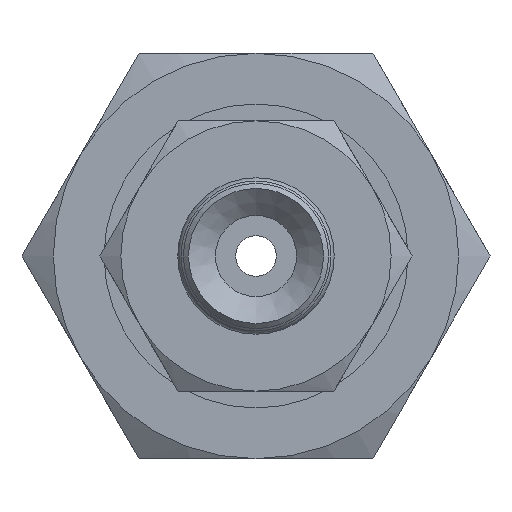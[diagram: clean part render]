
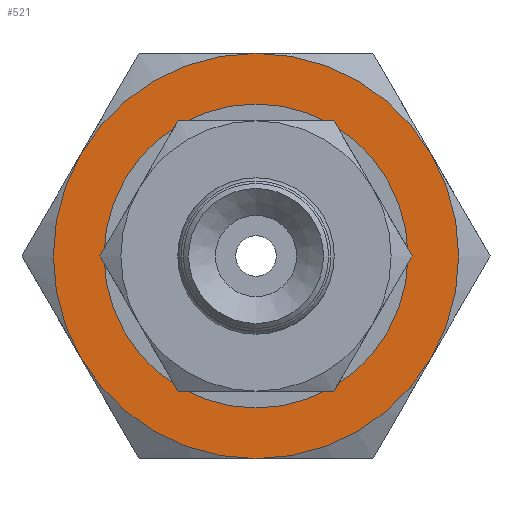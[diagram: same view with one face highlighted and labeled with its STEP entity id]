
A CAD part, front view. The second image highlights one B-rep face of the part: STEP entity #521.
In plain terms, the highlighted planar face has unit normal (0, -1, 0) as drawn and (-1, 0, 0) by its records, which use the part's own axes.
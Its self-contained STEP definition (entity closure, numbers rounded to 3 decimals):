
#521=ADVANCED_FACE('',(#759,#760),#761,.F.);
#759=FACE_BOUND('',#1133,.T.);
#760=FACE_OUTER_BOUND('',#1134,.T.);
#761=PLANE('',#1135);
#1133=EDGE_LOOP('',(#2026));
#1134=EDGE_LOOP('',(#2027,#2028,#2029,#2030,#2031,#2032));
#1135=AXIS2_PLACEMENT_3D('',#2033,#2034,#2035);
#2026=ORIENTED_EDGE('',*,*,#2655,.T.);
#2027=ORIENTED_EDGE('',*,*,#2636,.F.);
#2028=ORIENTED_EDGE('',*,*,#2673,.F.);
#2029=ORIENTED_EDGE('',*,*,#2669,.F.);
#2030=ORIENTED_EDGE('',*,*,#2644,.F.);
#2031=ORIENTED_EDGE('',*,*,#2643,.F.);
#2032=ORIENTED_EDGE('',*,*,#2638,.F.);
#2033=CARTESIAN_POINT('',(0.,0.0,0.0));
#2034=DIRECTION('',(1.0,0.0,0.0));
#2035=DIRECTION('',(0.0,1.0,0.0));
#2636=EDGE_CURVE('',#2965,#2968,#2969,.T.);
#2638=EDGE_CURVE('',#2968,#2971,#2972,.T.);
#2643=EDGE_CURVE('',#2971,#2976,#2980,.T.);
#2644=EDGE_CURVE('',#2976,#2981,#2982,.T.);
#2655=EDGE_CURVE('',#3000,#3000,#3001,.T.);
#2669=EDGE_CURVE('',#2981,#3014,#3021,.T.);
#2673=EDGE_CURVE('',#3014,#2965,#3026,.T.);
#2965=VERTEX_POINT('',#3537);
#2968=VERTEX_POINT('',#3560);
#2969=CIRCLE('',#3561,6.0);
#2971=VERTEX_POINT('',#3573);
#2972=CIRCLE('',#3574,6.0);
#2976=VERTEX_POINT('',#3598);
#2980=CIRCLE('',#3622,6.0);
#2981=VERTEX_POINT('',#3623);
#2982=CIRCLE('',#3624,6.0);
#3000=VERTEX_POINT('',#3682);
#3001=CIRCLE('',#3683,4.0);
#3014=VERTEX_POINT('',#3739);
#3021=CIRCLE('',#3796,6.0);
#3026=CIRCLE('',#3812,6.0);
#3537=CARTESIAN_POINT('',(0.,5.196,-3.0));
#3560=CARTESIAN_POINT('',(0.,5.196,3.0));
#3561=AXIS2_PLACEMENT_3D('',#4447,#4448,#4449);
#3573=CARTESIAN_POINT('',(0.,0.0,6.0));
#3574=AXIS2_PLACEMENT_3D('',#4450,#4451,#4452);
#3598=CARTESIAN_POINT('',(0.,-5.196,3.0));
#3622=AXIS2_PLACEMENT_3D('',#4453,#4454,#4455);
#3623=CARTESIAN_POINT('',(0.,-5.196,-3.0));
#3624=AXIS2_PLACEMENT_3D('',#4456,#4457,#4458);
#3682=CARTESIAN_POINT('',(0.,0.0,-4.0));
#3683=AXIS2_PLACEMENT_3D('',#4477,#4478,#4479);
#3739=CARTESIAN_POINT('',(0.,0.0,-6.0));
#3796=AXIS2_PLACEMENT_3D('',#4486,#4487,#4488);
#3812=AXIS2_PLACEMENT_3D('',#4493,#4494,#4495);
#4447=CARTESIAN_POINT('',(0.,0.0,0.0));
#4448=DIRECTION('',(1.0,0.0,0.0));
#4449=DIRECTION('',(0.0,0.0,-1.0));
#4450=CARTESIAN_POINT('',(0.,0.0,0.0));
#4451=DIRECTION('',(1.0,0.0,0.0));
#4452=DIRECTION('',(0.0,0.0,-1.0));
#4453=CARTESIAN_POINT('',(0.,0.0,0.0));
#4454=DIRECTION('',(1.0,0.0,0.0));
#4455=DIRECTION('',(0.0,0.0,-1.0));
#4456=CARTESIAN_POINT('',(0.,0.0,0.0));
#4457=DIRECTION('',(1.0,0.0,0.0));
#4458=DIRECTION('',(0.0,0.0,-1.0));
#4477=CARTESIAN_POINT('',(0.,0.0,0.0));
#4478=DIRECTION('',(1.0,0.0,0.0));
#4479=DIRECTION('',(0.0,0.0,-1.0));
#4486=CARTESIAN_POINT('',(0.,0.0,0.0));
#4487=DIRECTION('',(1.0,0.0,0.0));
#4488=DIRECTION('',(0.0,0.0,-1.0));
#4493=CARTESIAN_POINT('',(0.,0.0,0.0));
#4494=DIRECTION('',(1.0,0.0,0.0));
#4495=DIRECTION('',(0.0,0.0,-1.0));
